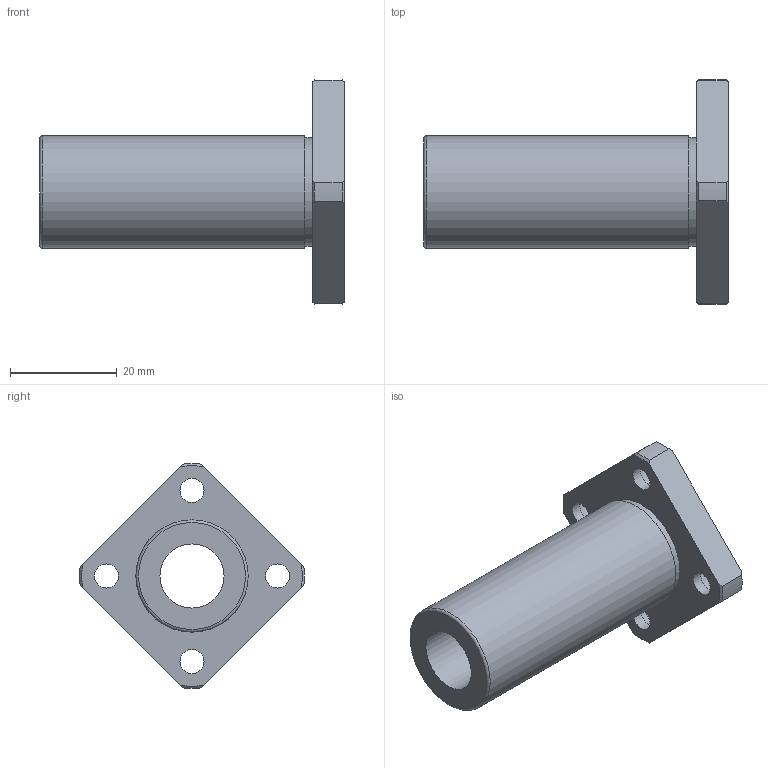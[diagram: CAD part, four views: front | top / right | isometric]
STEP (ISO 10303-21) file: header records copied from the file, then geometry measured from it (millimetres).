
FILE_DESCRIPTION(('STEP AP203'),'1');
FILE_NAME('//192.168.1.1/share/s-4 技術開発/s-4-4_CAD/s-4-4-3_見直し済み/002 修正済み/NFES-VL/NFES-VL_TOP/NFES-12VLUU.step','2022-03-08T00:55:13',(' '),(' '),'Spatial InterOp 3D',' ',' ');
FILE_SCHEMA(('CONFIG_CONTROL_DESIGN'));
Length unit declared in the file: millimetre
Products named in the file (1): 1
Bounding box: 57 x 41.98 x 41.98 mm (x, y, z)
Volume: 16413.5 mm3; surface area: 8434.8 mm2
Topology: 1 solids, 1 shells, 36 faces, 89 edges, 61 vertices
Faces by surface type: cylinder 15, plane 12, cone 8, torus 1
Full cylindrical faces by diameter (mm): 4.5 x4, 7.5 x4, 12 x1, 20.3 x1, 21 x1
Entity records: 1058 total; most frequent: CARTESIAN_POINT 211, DIRECTION 168, ORIENTED_EDGE 142, AXIS2_PLACEMENT_3D 76, EDGE_CURVE 71, EDGE_LOOP 64, VERTEX_POINT 55, FACE_OUTER_BOUND 48
